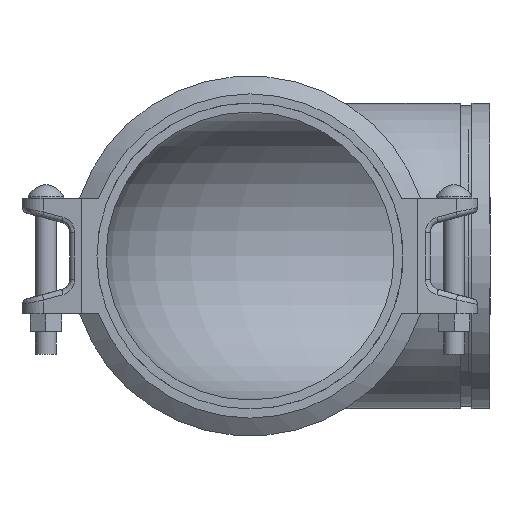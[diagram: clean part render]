
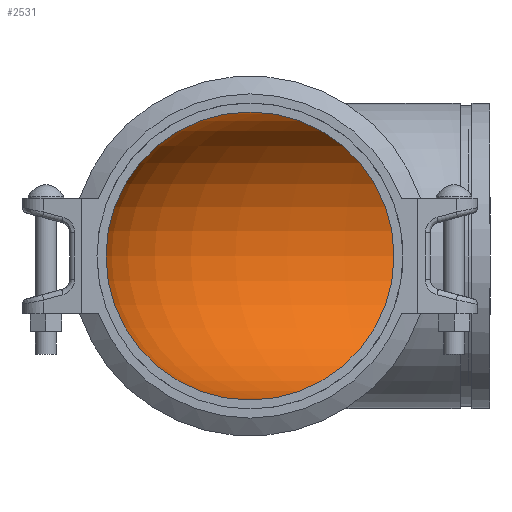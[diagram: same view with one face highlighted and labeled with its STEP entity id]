
A CAD part, left-side view. The second image highlights one B-rep face of the part: STEP entity #2531.
In plain terms, the highlighted toroidal (fillet/blend) face has major radius 230.988 mm and minor radius 152.4 mm.
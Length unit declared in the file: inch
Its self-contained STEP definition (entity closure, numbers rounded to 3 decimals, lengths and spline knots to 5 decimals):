
#102=TOROIDAL_SURFACE('',#2788,9.094,6.);
#550=FACE_OUTER_BOUND('',#699,.T.);
#699=EDGE_LOOP('',(#1627,#1628,#1629,#1630,#1631,#1632));
#873=CIRCLE('',#2785,6.);
#874=CIRCLE('',#2786,6.);
#876=CIRCLE('',#2789,6.);
#877=CIRCLE('',#2790,3.094);
#878=CIRCLE('',#2791,6.);
#1011=VERTEX_POINT('',#4168);
#1012=VERTEX_POINT('',#4169);
#1014=VERTEX_POINT('',#4176);
#1015=VERTEX_POINT('',#4177);
#1253=EDGE_CURVE('',#1011,#1012,#873,.T.);
#1254=EDGE_CURVE('',#1012,#1011,#874,.T.);
#1257=EDGE_CURVE('',#1014,#1015,#876,.T.);
#1258=EDGE_CURVE('',#1015,#1012,#877,.T.);
#1259=EDGE_CURVE('',#1015,#1014,#878,.T.);
#1627=ORIENTED_EDGE('',*,*,#1257,.T.);
#1628=ORIENTED_EDGE('',*,*,#1258,.T.);
#1629=ORIENTED_EDGE('',*,*,#1253,.F.);
#1630=ORIENTED_EDGE('',*,*,#1254,.F.);
#1631=ORIENTED_EDGE('',*,*,#1258,.F.);
#1632=ORIENTED_EDGE('',*,*,#1259,.T.);
#2531=ADVANCED_FACE('',(#550),#102,.F.);
#2785=AXIS2_PLACEMENT_3D('',#4170,#3116,#3117);
#2786=AXIS2_PLACEMENT_3D('',#4171,#3118,#3119);
#2788=AXIS2_PLACEMENT_3D('',#4175,#3123,#3124);
#2789=AXIS2_PLACEMENT_3D('',#4178,#3125,#3126);
#2790=AXIS2_PLACEMENT_3D('',#4179,#3127,#3128);
#2791=AXIS2_PLACEMENT_3D('',#4180,#3129,#3130);
#3116=DIRECTION('center_axis',(0.,1.,0.));
#3117=DIRECTION('ref_axis',(1.,0.,0.));
#3118=DIRECTION('center_axis',(0.,1.,0.));
#3119=DIRECTION('ref_axis',(1.,0.,0.));
#3123=DIRECTION('center_axis',(0.,0.,1.));
#3124=DIRECTION('ref_axis',(1.,0.,0.));
#3125=DIRECTION('center_axis',(1.,0.,0.));
#3126=DIRECTION('ref_axis',(0.,-1.,0.));
#3127=DIRECTION('center_axis',(0.,0.,1.));
#3128=DIRECTION('ref_axis',(1.,0.,0.));
#3129=DIRECTION('center_axis',(1.,0.,0.));
#3130=DIRECTION('ref_axis',(0.,-1.,0.));
#4168=CARTESIAN_POINT('',(-6.,-9.094,0.));
#4169=CARTESIAN_POINT('',(6.,-9.094,0.));
#4170=CARTESIAN_POINT('Origin',(0.,-9.094,
0.));
#4171=CARTESIAN_POINT('Origin',(0.,-9.094,
0.));
#4175=CARTESIAN_POINT('Origin',(9.094,-9.094,0.));
#4176=CARTESIAN_POINT('',(9.094,6.,0.));
#4177=CARTESIAN_POINT('',(9.094,-6.,0.));
#4178=CARTESIAN_POINT('Origin',(9.094,0.,0.));
#4179=CARTESIAN_POINT('Origin',(9.094,-9.094,0.));
#4180=CARTESIAN_POINT('Origin',(9.094,0.,0.));
